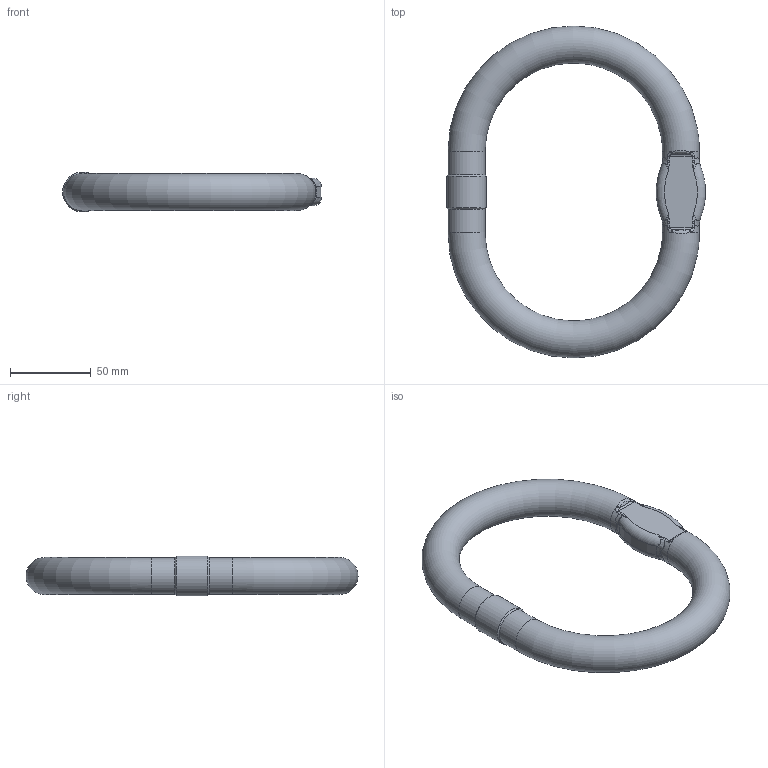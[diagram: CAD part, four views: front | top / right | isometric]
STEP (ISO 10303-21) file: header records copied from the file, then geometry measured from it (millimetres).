
FILE_DESCRIPTION(/* description */ (''),/* implementation_level */ '2;1');
FILE_NAME(/* name */ 'MW 22 Kundenmodell',/* time_stamp */ '2009-09-15T14:36:55+02:00',/* author */ (''),/* organization */ (''),/* preprocessor_version */ 'ST-DEVELOPER v9',/* originating_system */ 'UGS - NX 4.0',/* authorisation */ '');
FILE_SCHEMA (('AUTOMOTIVE_DESIGN { 1 0 10303 214 1 1 1 1 }'));
Length unit declared in the file: millimetre
Products named in the file (1): ritB4CA0cf8
Bounding box: 160.56 x 206 x 24.73 mm (x, y, z)
Volume: 217133.3 mm3; surface area: 37955.9 mm2
Topology: 1 solids, 1 shells, 91 faces, 230 edges, 123 vertices
Faces by surface type: bspline 56, cylinder 21, torus 6, plane 6, cone 2
Full cylindrical faces by diameter (mm): 23 x2, 24.725 x1
Entity records: 3656 total; most frequent: CARTESIAN_POINT 1954, ORIENTED_EDGE 404, DIRECTION 276, EDGE_CURVE 202, AXIS2_PLACEMENT_3D 126, VERTEX_POINT 118, EDGE_LOOP 98, ADVANCED_FACE 91
